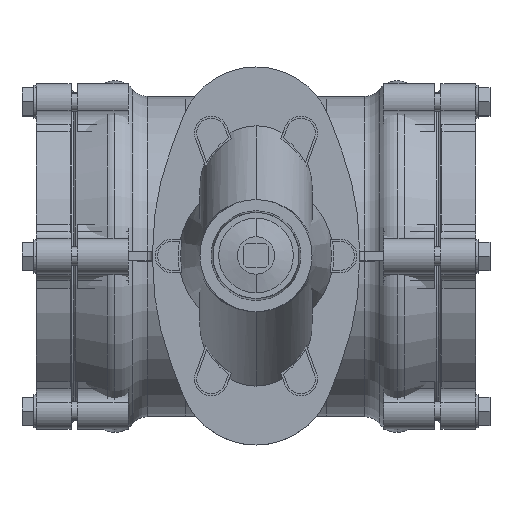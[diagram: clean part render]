
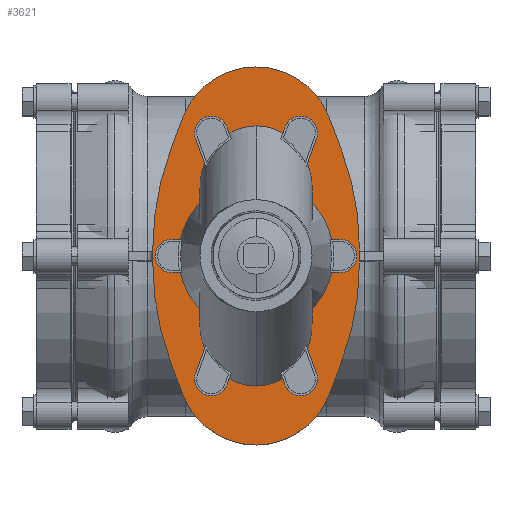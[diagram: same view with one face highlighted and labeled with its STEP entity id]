
A CAD part, top view. The second image highlights one B-rep face of the part: STEP entity #3621.
In plain terms, the highlighted planar face has unit normal (0, 0, 1).
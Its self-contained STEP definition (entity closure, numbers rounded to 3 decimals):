
#3621=ADVANCED_FACE('',(#6675),#6676,.T.);
#6675=FACE_OUTER_BOUND('',#10169,.T.);
#6676=PLANE('',#10170);
#10169=EDGE_LOOP('',(#16879,#16880,#16881,#16882,#16883,#16884,#16885,#16886,#16887,#16888,#16889,#16890,#16891,#16892));
#10170=AXIS2_PLACEMENT_3D('',#16893,#16894,#16895);
#16879=ORIENTED_EDGE('',*,*,#18910,.F.);
#16880=ORIENTED_EDGE('',*,*,#19746,.F.);
#16881=ORIENTED_EDGE('',*,*,#20860,.F.);
#16882=ORIENTED_EDGE('',*,*,#20220,.F.);
#16883=ORIENTED_EDGE('',*,*,#18549,.F.);
#16884=ORIENTED_EDGE('',*,*,#20429,.F.);
#16885=ORIENTED_EDGE('',*,*,#19255,.F.);
#16886=ORIENTED_EDGE('',*,*,#19570,.F.);
#16887=ORIENTED_EDGE('',*,*,#20152,.F.);
#16888=ORIENTED_EDGE('',*,*,#19977,.F.);
#16889=ORIENTED_EDGE('',*,*,#20560,.F.);
#16890=ORIENTED_EDGE('',*,*,#20212,.F.);
#16891=ORIENTED_EDGE('',*,*,#18257,.F.);
#16892=ORIENTED_EDGE('',*,*,#20104,.F.);
#16893=CARTESIAN_POINT('',(60.056,0.,388.0));
#16894=DIRECTION('',(0.0,0.0,1.0));
#16895=DIRECTION('',(1.0,0.0,0.0));
#18257=EDGE_CURVE('',#21279,#21282,#21283,.T.);
#18549=EDGE_CURVE('',#21795,#21791,#21797,.T.);
#18910=EDGE_CURVE('',#22393,#22394,#22395,.T.);
#19255=EDGE_CURVE('',#22933,#22929,#22935,.T.);
#19570=EDGE_CURVE('',#23419,#22933,#23420,.T.);
#19746=EDGE_CURVE('',#23681,#22393,#23682,.T.);
#19977=EDGE_CURVE('',#23999,#24000,#24001,.T.);
#20104=EDGE_CURVE('',#22394,#21279,#24163,.T.);
#20152=EDGE_CURVE('',#24000,#23419,#24227,.T.);
#20212=EDGE_CURVE('',#21282,#24305,#24309,.T.);
#20220=EDGE_CURVE('',#21791,#24318,#24319,.T.);
#20429=EDGE_CURVE('',#22929,#21795,#24593,.T.);
#20560=EDGE_CURVE('',#24305,#23999,#24752,.T.);
#20860=EDGE_CURVE('',#24318,#23681,#25090,.T.);
#21279=VERTEX_POINT('',#25565);
#21282=VERTEX_POINT('',#25569);
#21283=CIRCLE('',#25570,304.747);
#21791=VERTEX_POINT('',#26201);
#21795=VERTEX_POINT('',#26206);
#21797=CIRCLE('',#26209,291.369);
#22393=VERTEX_POINT('',#26956);
#22394=VERTEX_POINT('',#26957);
#22395=LINE('',#26958,#26959);
#22929=VERTEX_POINT('',#27655);
#22933=VERTEX_POINT('',#27660);
#22935=CIRCLE('',#27663,291.369);
#23419=VERTEX_POINT('',#28280);
#23420=LINE('',#28281,#28282);
#23681=VERTEX_POINT('',#28628);
#23682=CIRCLE('',#28629,83.742);
#23999=VERTEX_POINT('',#29051);
#24000=VERTEX_POINT('',#29052);
#24001=LINE('',#29053,#29054);
#24163=CIRCLE('',#29262,304.747);
#24227=CIRCLE('',#29343,83.742);
#24305=VERTEX_POINT('',#29446);
#24309=CIRCLE('',#29451,304.747);
#24318=VERTEX_POINT('',#29460);
#24319=CIRCLE('',#29461,291.369);
#24593=CIRCLE('',#29826,291.369);
#24752=CIRCLE('',#30035,304.747);
#25090=LINE('',#30457,#30458);
#25565=CARTESIAN_POINT('',(-50.584,-7.187,388.0));
#25569=CARTESIAN_POINT('',(-50.5,0.,388.0));
#25570=AXIS2_PLACEMENT_3D('',#30873,#30874,#30875);
#26201=CARTESIAN_POINT('',(170.653,-9.474,388.0));
#26206=CARTESIAN_POINT('',(170.499,0.,388.0));
#26209=AXIS2_PLACEMENT_3D('',#31316,#31317,#31318);
#26956=CARTESIAN_POINT('',(-18.356,-148.2,388.0));
#26957=CARTESIAN_POINT('',(-30.982,-114.719,388.0));
#26958=CARTESIAN_POINT('',(-30.982,-114.719,388.0));
#26959=VECTOR('',#31836,1.0);
#27655=CARTESIAN_POINT('',(170.653,9.474,388.0));
#27660=CARTESIAN_POINT('',(151.881,112.368,388.0));
#27663=AXIS2_PLACEMENT_3D('',#32271,#32272,#32273);
#28280=CARTESIAN_POINT('',(138.355,148.2,388.0));
#28281=CARTESIAN_POINT('',(151.881,112.368,388.0));
#28282=VECTOR('',#32710,1.0);
#28628=CARTESIAN_POINT('',(138.356,-148.2,388.0));
#28629=AXIS2_PLACEMENT_3D('',#32919,#32920,#32921);
#29051=CARTESIAN_POINT('',(-30.982,114.719,388.0));
#29052=CARTESIAN_POINT('',(-18.356,148.2,388.0));
#29053=CARTESIAN_POINT('',(-18.356,148.2,388.0));
#29054=VECTOR('',#33180,1.0);
#29262=AXIS2_PLACEMENT_3D('',#33326,#33327,#33328);
#29343=AXIS2_PLACEMENT_3D('',#33385,#33386,#33387);
#29446=CARTESIAN_POINT('',(-50.584,7.187,388.0));
#29451=AXIS2_PLACEMENT_3D('',#33456,#33457,#33458);
#29460=CARTESIAN_POINT('',(151.881,-112.368,388.0));
#29461=AXIS2_PLACEMENT_3D('',#33471,#33472,#33473);
#29826=AXIS2_PLACEMENT_3D('',#33709,#33710,#33711);
#30035=AXIS2_PLACEMENT_3D('',#33849,#33850,#33851);
#30457=CARTESIAN_POINT('',(138.356,-148.2,388.0));
#30458=VECTOR('',#34134,1.0);
#30873=CARTESIAN_POINT('',(254.162,-7.187,388.0));
#30874=DIRECTION('',(0.0,0.0,-1.0));
#30875=DIRECTION('',(1.0,0.0,0.0));
#31316=CARTESIAN_POINT('',(-120.715,-9.474,388.0));
#31317=DIRECTION('',(0.0,0.0,-1.0));
#31318=DIRECTION('',(1.0,0.0,0.0));
#31836=DIRECTION('',(-0.353,0.936,0.0));
#32271=CARTESIAN_POINT('',(-120.715,9.474,388.0));
#32272=DIRECTION('',(0.0,0.0,-1.0));
#32273=DIRECTION('',(1.0,0.0,0.0));
#32710=DIRECTION('',(0.353,-0.936,0.0));
#32919=CARTESIAN_POINT('',(60.,-118.651,388.0));
#32920=DIRECTION('',(0.0,0.0,-1.0));
#32921=DIRECTION('',(1.0,0.0,0.0));
#33180=DIRECTION('',(0.353,0.936,0.0));
#33326=CARTESIAN_POINT('',(254.162,-7.187,388.0));
#33327=DIRECTION('',(0.0,0.0,-1.0));
#33328=DIRECTION('',(1.0,0.0,0.0));
#33385=CARTESIAN_POINT('',(60.,118.651,388.0));
#33386=DIRECTION('',(0.0,0.0,-1.0));
#33387=DIRECTION('',(1.0,0.0,0.0));
#33456=CARTESIAN_POINT('',(254.162,7.187,388.0));
#33457=DIRECTION('',(0.0,0.0,-1.0));
#33458=DIRECTION('',(1.0,0.0,0.0));
#33471=CARTESIAN_POINT('',(-120.715,-9.474,388.0));
#33472=DIRECTION('',(0.0,0.0,-1.0));
#33473=DIRECTION('',(1.0,0.0,0.0));
#33709=CARTESIAN_POINT('',(-120.715,9.474,388.0));
#33710=DIRECTION('',(0.0,0.0,-1.0));
#33711=DIRECTION('',(1.0,0.0,0.0));
#33849=CARTESIAN_POINT('',(254.162,7.187,388.0));
#33850=DIRECTION('',(0.0,0.0,-1.0));
#33851=DIRECTION('',(1.0,0.0,0.0));
#34134=DIRECTION('',(-0.353,-0.936,-0.0));
